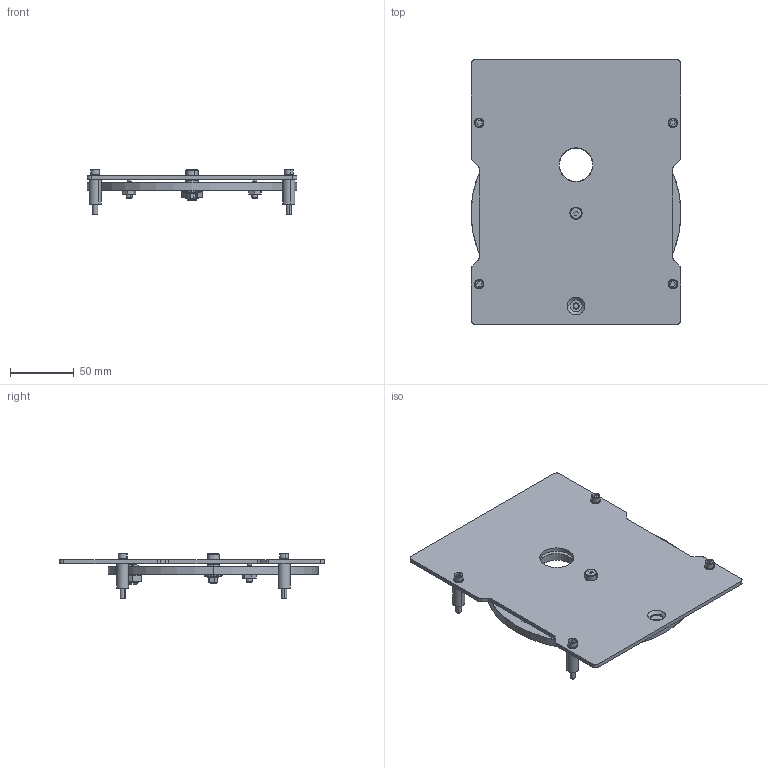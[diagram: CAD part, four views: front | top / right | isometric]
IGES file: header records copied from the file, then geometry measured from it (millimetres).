
Start section: SolidWorks IGES file using analytic representation for surfaces
Global section: file name: C:\Users\Doug\Desktop\SOLID MODELS\319-001-333, DOC,SOLID MODEL,MAN APERTURE WHEEL,8 POS\319-001-333_NC.IGS; native system: SolidWorks 2013; preprocessor: SolidWorks 2013; author: doug; date: 140904.152724; units: inch
Bounding box: 165.1 x 208.03 x 35.92 mm (x, y, z)
Surface area: 125539.7 mm2 (no closed solid volume)
Topology: 0 solids, 0 shells, 610 faces, 9303 edges, 9285 vertices
Faces by surface type: bspline 339, revolution 271
